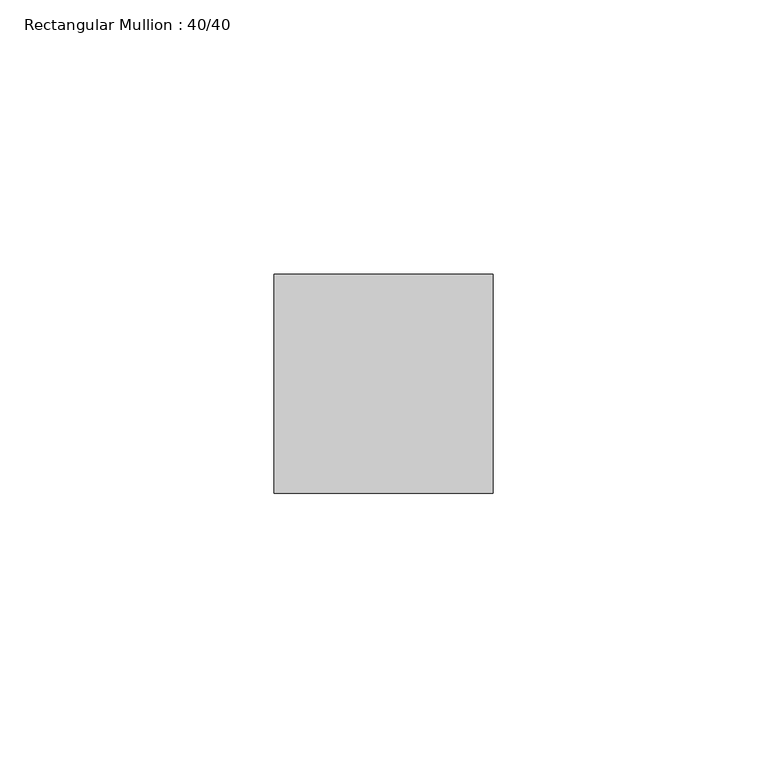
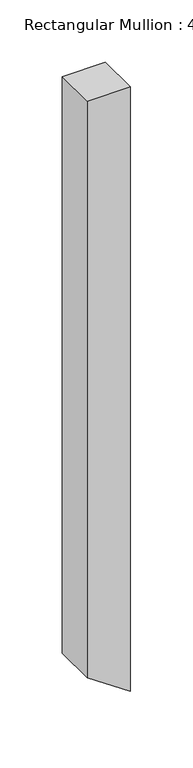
"""IFC4 building model written with IfcOpenShell, lengths in millimetres: member geometry, Rectangular Mullion : 40/40."""

from ifc_helpers import new_model, si_unit, frame, origin, place, context, project, spatial, polyline, outline, extrude, source, transform, mapped, element, save


def rectangular_mullion_40_40_41786b79(model_context):
    return source(origin(), model_context, "Body", "SweptSolid", [
        extrude(outline(polyline([(0.0, 0.0), (0.0, -40.0), (-565.2277779, -40.0), (-592.613098, 0.0), (0.0, 0.0)])), frame((0.0, -20.0, 0.0), z_axis=(0.0, 1.0, 0.0), x_axis=(0.0, 0.0, 1.0)), (0.0, 0.0, 1.0), 40.0),
    ])


if __name__ == "__main__":
    model = new_model("IFC4")
    model_context = context("Model", 3, world=origin())
    ifc_project = project(units=[si_unit("LENGTHUNIT", "METRE", prefix="MILLI")], contexts=[model_context])
    site = spatial("IfcSite", under=ifc_project)
    building = spatial("IfcBuilding", under=site)
    placement = place(None, origin())
    rectangular_mullion_40_40_shape = rectangular_mullion_40_40_41786b79(model_context)
    element("IfcMember", 1, ObjectType="Rectangular Mullion : 40/40", at=placement, inside=building, context=model_context, shape_type="MappedRepresentation", body=[
        mapped(rectangular_mullion_40_40_shape, transform((0.0, 0.0, 0.0), x_axis=(1.0, 0.0, 0.0), y_axis=(0.0, 1.0, 0.0), z_axis=(0.0, 0.0, 1.0))),
    ])
    save(model, "model.ifc")
